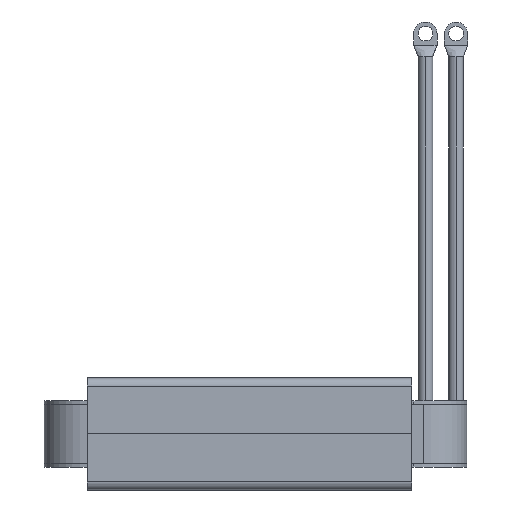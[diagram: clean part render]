
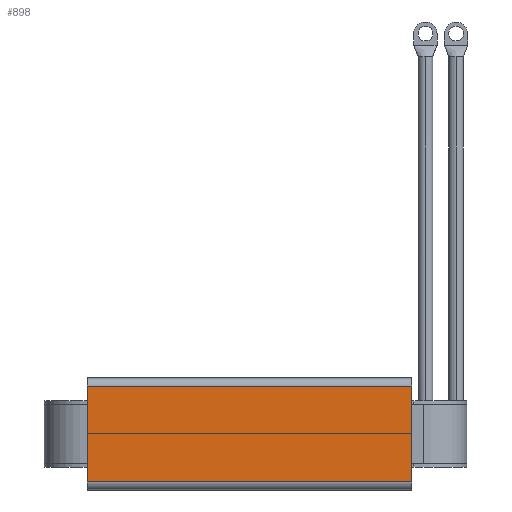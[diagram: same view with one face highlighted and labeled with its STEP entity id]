
A CAD part, front view. The second image highlights one B-rep face of the part: STEP entity #898.
In plain terms, the highlighted planar face has unit normal (0, -1, 0).
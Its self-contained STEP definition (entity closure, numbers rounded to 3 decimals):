
#194 = EDGE_LOOP ( 'NONE', ( #12253, #10349, #16935, #17787 ) ) ;
#898 = ADVANCED_FACE ( 'NONE', ( #2353 ), #2836, .F. ) ;
#1459 = CARTESIAN_POINT ( 'NONE',  ( -290.835, -58.2, -41. ) ) ;
#1713 = DIRECTION ( 'NONE',  ( 0., 0., -1. ) ) ;
#2353 = FACE_OUTER_BOUND ( 'NONE', #194, .T. ) ;
#2735 = DIRECTION ( 'NONE',  ( 1., 0., 0. ) ) ;
#2802 = CARTESIAN_POINT ( 'NONE',  ( -290.835, -58.2, 41. ) ) ;
#2836 = PLANE ( 'NONE',  #12681 ) ;
#4097 = LINE ( 'NONE', #1459, #14073 ) ;
#4170 = LINE ( 'NONE', #2802, #18307 ) ;
#4289 = DIRECTION ( 'NONE',  ( 1., 0., 0. ) ) ;
#4788 = CARTESIAN_POINT ( 'NONE',  ( 139.7, -58.2, -41. ) ) ;
#4847 = LINE ( 'NONE', #6324, #18058 ) ;
#5159 = CARTESIAN_POINT ( 'NONE',  ( -139.7, -58.2, 41. ) ) ;
#5983 = CARTESIAN_POINT ( 'NONE',  ( 139.7, -58.2, -41. ) ) ;
#6324 = CARTESIAN_POINT ( 'NONE',  ( -139.7, -58.2, -41. ) ) ;
#6672 = VERTEX_POINT ( 'NONE', #5983 ) ;
#7313 = DIRECTION ( 'NONE',  ( 0., 0., 1. ) ) ;
#7601 = VERTEX_POINT ( 'NONE', #14177 ) ;
#7818 = DIRECTION ( 'NONE',  ( 0., 0., -1. ) ) ;
#8676 = EDGE_CURVE ( 'NONE', #7601, #6672, #18801, .T. ) ;
#10341 = CARTESIAN_POINT ( 'NONE',  ( -290.835, -58.2, -41. ) ) ;
#10349 = ORIENTED_EDGE ( 'NONE', *, *, #14409, .T. ) ;
#11415 = VECTOR ( 'NONE', #1713, 1000. ) ;
#12253 = ORIENTED_EDGE ( 'NONE', *, *, #15336, .F. ) ;
#12507 = VERTEX_POINT ( 'NONE', #16291 ) ;
#12681 = AXIS2_PLACEMENT_3D ( 'NONE', #10341, #16023, #7313 ) ;
#14073 = VECTOR ( 'NONE', #2735, 1000. ) ;
#14177 = CARTESIAN_POINT ( 'NONE',  ( 139.7, -58.2, 41. ) ) ;
#14409 = EDGE_CURVE ( 'NONE', #18559, #12507, #4847, .T. ) ;
#15336 = EDGE_CURVE ( 'NONE', #18559, #7601, #4170, .T. ) ;
#16023 = DIRECTION ( 'NONE',  ( 0., 1., 0. ) ) ;
#16291 = CARTESIAN_POINT ( 'NONE',  ( -139.7, -58.2, -41. ) ) ;
#16935 = ORIENTED_EDGE ( 'NONE', *, *, #17212, .T. ) ;
#17212 = EDGE_CURVE ( 'NONE', #12507, #6672, #4097, .T. ) ;
#17787 = ORIENTED_EDGE ( 'NONE', *, *, #8676, .F. ) ;
#18058 = VECTOR ( 'NONE', #7818, 1000. ) ;
#18307 = VECTOR ( 'NONE', #4289, 1000. ) ;
#18559 = VERTEX_POINT ( 'NONE', #5159 ) ;
#18801 = LINE ( 'NONE', #4788, #11415 ) ;
